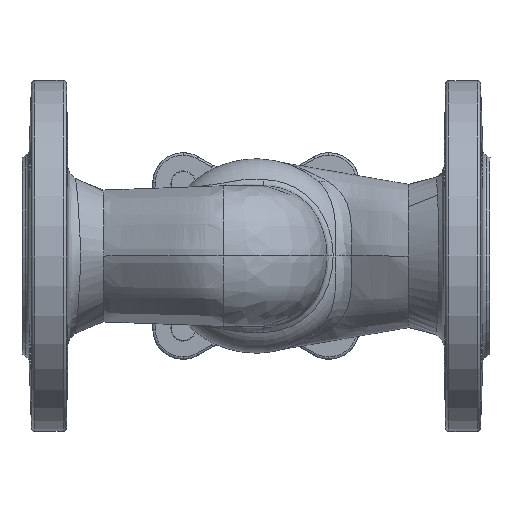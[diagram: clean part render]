
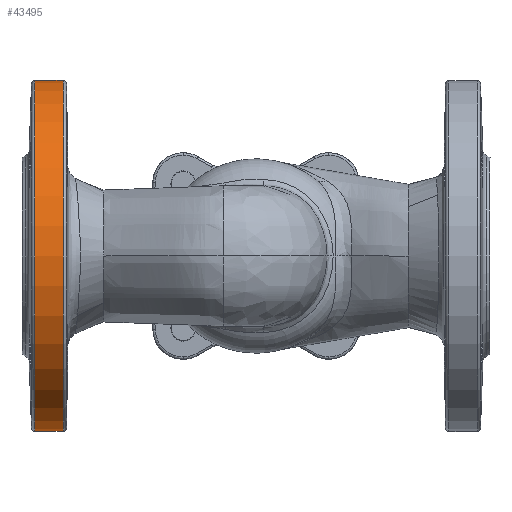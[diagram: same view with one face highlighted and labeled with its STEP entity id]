
A CAD part, front view. The second image highlights one B-rep face of the part: STEP entity #43495.
In plain terms, the highlighted cylindrical face has radius 75 mm (diameter 150 mm), a partial arc.
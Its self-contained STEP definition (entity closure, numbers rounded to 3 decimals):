
#2724 = AXIS2_PLACEMENT_3D ( 'NONE', #88080, #27642, #79711 ) ;
#4167 = VERTEX_POINT ( 'NONE', #6867 ) ;
#5145 = DIRECTION ( 'NONE',  ( -1., 0., 0. ) ) ;
#6867 = CARTESIAN_POINT ( 'NONE',  ( 5.54, 0., -75. ) ) ;
#7750 = DIRECTION ( 'NONE',  ( -1., 0., 0. ) ) ;
#14571 = DIRECTION ( 'NONE',  ( -1., 0., 0. ) ) ;
#15604 = CARTESIAN_POINT ( 'NONE',  ( 0., 0., -75. ) ) ;
#16378 = EDGE_LOOP ( 'NONE', ( #49328, #63114, #43917, #41040 ) ) ;
#27642 = DIRECTION ( 'NONE',  ( -1., 0., 0. ) ) ;
#29961 = VECTOR ( 'NONE', #5145, 1000. ) ;
#30756 = DIRECTION ( 'NONE',  ( 0., 0., 1. ) ) ;
#31620 = CARTESIAN_POINT ( 'NONE',  ( 17.526, 0., 75. ) ) ;
#32609 = AXIS2_PLACEMENT_3D ( 'NONE', #81864, #14571, #30756 ) ;
#34274 = CARTESIAN_POINT ( 'NONE',  ( 17.526, 0., 0. ) ) ;
#36299 = CARTESIAN_POINT ( 'NONE',  ( 17.526, 0., -75. ) ) ;
#39702 = VERTEX_POINT ( 'NONE', #31620 ) ;
#40990 = CIRCLE ( 'NONE', #45676, 75. ) ;
#41040 = ORIENTED_EDGE ( 'NONE', *, *, #75154, .F. ) ;
#43495 = ADVANCED_FACE ( 'NONE', ( #65936 ), #49270, .T. ) ;
#43917 = ORIENTED_EDGE ( 'NONE', *, *, #62301, .T. ) ;
#45676 = AXIS2_PLACEMENT_3D ( 'NONE', #34274, #93205, #65170 ) ;
#49270 = CYLINDRICAL_SURFACE ( 'NONE', #2724, 75. ) ;
#49328 = ORIENTED_EDGE ( 'NONE', *, *, #60522, .F. ) ;
#49957 = CARTESIAN_POINT ( 'NONE',  ( 5.54, 0., 75. ) ) ;
#55849 = VERTEX_POINT ( 'NONE', #49957 ) ;
#59776 = VECTOR ( 'NONE', #7750, 1000. ) ;
#60522 = EDGE_CURVE ( 'NONE', #78690, #4167, #75996, .T. ) ;
#62301 = EDGE_CURVE ( 'NONE', #39702, #55849, #66993, .T. ) ;
#62379 = CIRCLE ( 'NONE', #32609, 75. ) ;
#63114 = ORIENTED_EDGE ( 'NONE', *, *, #63515, .T. ) ;
#63515 = EDGE_CURVE ( 'NONE', #78690, #39702, #40990, .T. ) ;
#65170 = DIRECTION ( 'NONE',  ( 0., 0., 1. ) ) ;
#65936 = FACE_OUTER_BOUND ( 'NONE', #16378, .T. ) ;
#66993 = LINE ( 'NONE', #96972, #29961 ) ;
#75154 = EDGE_CURVE ( 'NONE', #4167, #55849, #62379, .T. ) ;
#75996 = LINE ( 'NONE', #15604, #59776 ) ;
#78690 = VERTEX_POINT ( 'NONE', #36299 ) ;
#79711 = DIRECTION ( 'NONE',  ( 0., 0., 1. ) ) ;
#81864 = CARTESIAN_POINT ( 'NONE',  ( 5.54, 0., 0. ) ) ;
#88080 = CARTESIAN_POINT ( 'NONE',  ( 0., 0., 0. ) ) ;
#93205 = DIRECTION ( 'NONE',  ( -1., 0., 0. ) ) ;
#96972 = CARTESIAN_POINT ( 'NONE',  ( 0., 0., 75. ) ) ;
